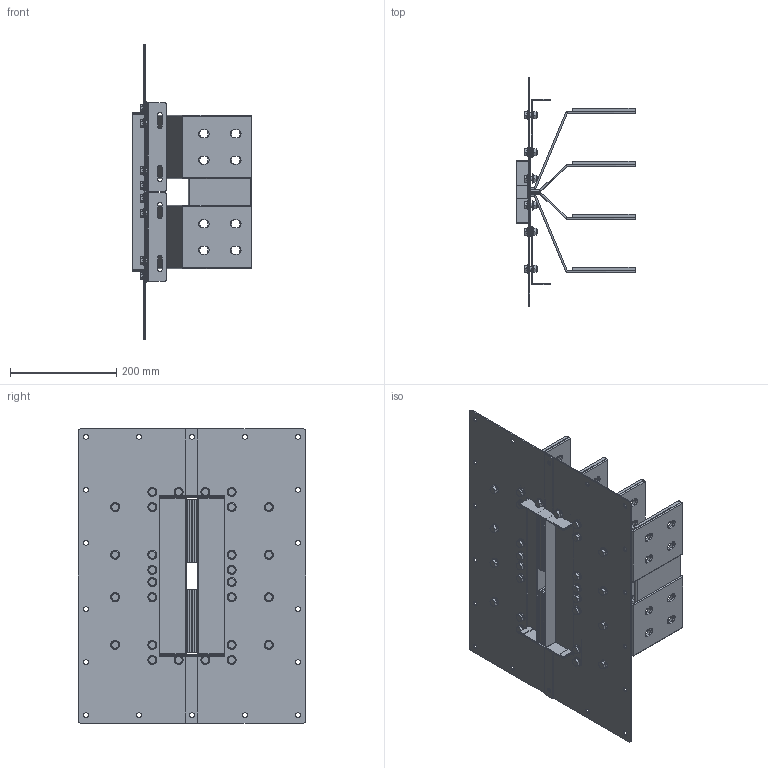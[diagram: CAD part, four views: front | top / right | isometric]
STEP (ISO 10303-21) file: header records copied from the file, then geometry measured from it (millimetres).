
FILE_DESCRIPTION(('CATIA V5 STEP','CAx-IF Rec.Pracs.--- Model Styling and Organization---1.5--- 2016-08-15','CAx-IF Rec.Pracs.---Supplemental Geometry---1.0---2011-11-01','CAx-IF Rec.Pracs.--- Composite Materials ---1.1---2010-07-15'),'2;1');
FILE_NAME('K:\COSCN 2011\32372311_RiduzioneSezioniBarre\03_Studio\__Modelli semplificati\XCP_UB semplificati per studi\XCP-S_UB_4C_Pe_STD_Assieme\Cu\XCP-S_UB_4C_Pe_D_Assieme - 2500A Cu\XCP-S_UB_4C_Pe_D_Assieme - 2500A Cu.stp','2025-05-12T13:11:05+00:00',('Utente Bticino'),('Bticino S.p.A.'),'CATIA Version 5-6 Release 2020 SP5','CATIA V5 STEP AP214 v2','none');
FILE_SCHEMA(('AUTOMOTIVE_DESIGN { 1 0 10303 214 1 1 1 1 }'));
Length unit declared in the file: millimetre
Products named in the file (8): XCP-S_UB_4C_Pe_D_Assieme - 2500A Cu; XCP-S_UB_4C_Pe_D_PaccoBarre_2500 Cu; XCP-S_UB_4C_Pe_D_Lamiere_2500A Cu; XCP-S_UB_4C_Pe_D_PaccoBarre_2500 Cu_1; XCP-S_UB_4C_Pe_D - 2500A Cu_Bandelle parallelo; Ass Vite+dado M8; Steel hex flanged SCREW M12x16; Steel hex flanged NUT M8
Assembly tree (34 placements, depth 3):
  XCP-S_UB_4C_Pe_D_Assieme - 2500A Cu
    XCP-S_UB_4C_Pe_D_PaccoBarre_2500 Cu
    XCP-S_UB_4C_Pe_D_Lamiere_2500A Cu
    XCP-S_UB_4C_Pe_D_PaccoBarre_2500 Cu_1
    XCP-S_UB_4C_Pe_D - 2500A Cu_Bandelle parallelo
    Ass Vite+dado M8  x28
      Steel hex flanged SCREW M12x16
      Steel hex flanged NUT M8
Bounding box: 225 x 430 x 555 mm (x, y, z)
Volume: 2489951 mm3; surface area: 1659222.3 mm2
Topology: 78 solids, 78 shells, 2068 faces, 5108 edges, 3252 vertices
Faces by surface type: plane 864, cylinder 700, cone 224, bspline 224, torus 56
Entity records: 26154 total; most frequent: CARTESIAN_POINT 5608, ORIENTED_EDGE 4492, DIRECTION 3360, EDGE_CURVE 2246, VERTEX_POINT 1470, AXIS2_PLACEMENT_3D 1402, VECTOR 1360, LINE 1360
